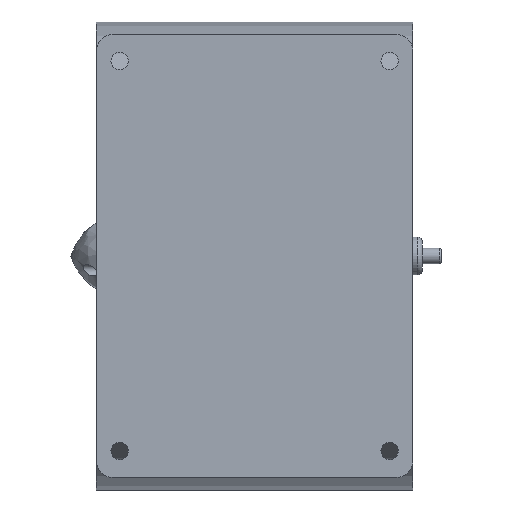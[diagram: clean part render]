
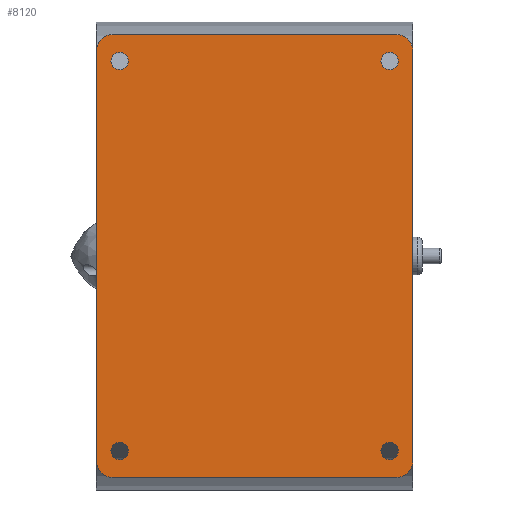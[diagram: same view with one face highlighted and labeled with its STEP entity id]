
A CAD part, left-side view. The second image highlights one B-rep face of the part: STEP entity #8120.
In plain terms, the highlighted planar face has unit normal (-1, 0, 0).
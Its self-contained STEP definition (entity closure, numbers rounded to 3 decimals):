
#205=FACE_BOUND('',#1857,.T.);
#206=FACE_BOUND('',#1858,.T.);
#207=FACE_BOUND('',#1859,.T.);
#208=FACE_BOUND('',#1860,.T.);
#1135=PLANE('',#8819);
#1447=FACE_OUTER_BOUND('',#1856,.T.);
#1856=EDGE_LOOP('',(#7305,#7306,#7307,#7308,#7309,#7310,#7311,#7312));
#1857=EDGE_LOOP('',(#7313));
#1858=EDGE_LOOP('',(#7314));
#1859=EDGE_LOOP('',(#7315));
#1860=EDGE_LOOP('',(#7316));
#2134=LINE('',#28624,#2384);
#2146=LINE('',#28680,#2396);
#2147=LINE('',#28684,#2397);
#2148=LINE('',#28688,#2398);
#2384=VECTOR('',#9993,10.);
#2396=VECTOR('',#10039,10.);
#2397=VECTOR('',#10042,10.);
#2398=VECTOR('',#10045,10.);
#2685=CIRCLE('',#8754,2.75);
#2687=CIRCLE('',#8757,2.75);
#2689=CIRCLE('',#8760,2.75);
#2691=CIRCLE('',#8763,2.75);
#2719=CIRCLE('',#8800,5.);
#2737=CIRCLE('',#8820,5.);
#2738=CIRCLE('',#8821,5.);
#2739=CIRCLE('',#8822,5.);
#3617=VERTEX_POINT('',#28348);
#3619=VERTEX_POINT('',#28354);
#3621=VERTEX_POINT('',#28360);
#3623=VERTEX_POINT('',#28366);
#3653=VERTEX_POINT('',#28614);
#3654=VERTEX_POINT('',#28615);
#3657=VERTEX_POINT('',#28623);
#3684=VERTEX_POINT('',#28679);
#3685=VERTEX_POINT('',#28681);
#3686=VERTEX_POINT('',#28683);
#3687=VERTEX_POINT('',#28685);
#3688=VERTEX_POINT('',#28687);
#4833=EDGE_CURVE('',#3617,#3617,#2685,.T.);
#4836=EDGE_CURVE('',#3619,#3619,#2687,.T.);
#4839=EDGE_CURVE('',#3621,#3621,#2689,.T.);
#4842=EDGE_CURVE('',#3623,#3623,#2691,.T.);
#4883=EDGE_CURVE('',#3653,#3654,#2719,.T.);
#4887=EDGE_CURVE('',#3654,#3657,#2134,.T.);
#4915=EDGE_CURVE('',#3653,#3684,#2146,.T.);
#4916=EDGE_CURVE('',#3685,#3684,#2737,.T.);
#4917=EDGE_CURVE('',#3686,#3685,#2147,.T.);
#4918=EDGE_CURVE('',#3687,#3686,#2738,.T.);
#4919=EDGE_CURVE('',#3688,#3687,#2148,.T.);
#4920=EDGE_CURVE('',#3657,#3688,#2739,.T.);
#7305=ORIENTED_EDGE('',*,*,#4883,.F.);
#7306=ORIENTED_EDGE('',*,*,#4915,.T.);
#7307=ORIENTED_EDGE('',*,*,#4916,.F.);
#7308=ORIENTED_EDGE('',*,*,#4917,.F.);
#7309=ORIENTED_EDGE('',*,*,#4918,.F.);
#7310=ORIENTED_EDGE('',*,*,#4919,.F.);
#7311=ORIENTED_EDGE('',*,*,#4920,.F.);
#7312=ORIENTED_EDGE('',*,*,#4887,.F.);
#7313=ORIENTED_EDGE('',*,*,#4833,.T.);
#7314=ORIENTED_EDGE('',*,*,#4836,.T.);
#7315=ORIENTED_EDGE('',*,*,#4839,.T.);
#7316=ORIENTED_EDGE('',*,*,#4842,.T.);
#8120=ADVANCED_FACE('',(#1447,#205,#206,#207,#208),#1135,.T.);
#8754=AXIS2_PLACEMENT_3D('',#28349,#9883,#9884);
#8757=AXIS2_PLACEMENT_3D('',#28355,#9890,#9891);
#8760=AXIS2_PLACEMENT_3D('',#28361,#9897,#9898);
#8763=AXIS2_PLACEMENT_3D('',#28367,#9904,#9905);
#8800=AXIS2_PLACEMENT_3D('',#28616,#9985,#9986);
#8819=AXIS2_PLACEMENT_3D('',#28678,#10037,#10038);
#8820=AXIS2_PLACEMENT_3D('',#28682,#10040,#10041);
#8821=AXIS2_PLACEMENT_3D('',#28686,#10043,#10044);
#8822=AXIS2_PLACEMENT_3D('',#28689,#10046,#10047);
#9883=DIRECTION('center_axis',(1.,0.,0.));
#9884=DIRECTION('ref_axis',(0.,0.,1.));
#9890=DIRECTION('center_axis',(1.,0.,0.));
#9891=DIRECTION('ref_axis',(0.,0.,1.));
#9897=DIRECTION('center_axis',(1.,0.,0.));
#9898=DIRECTION('ref_axis',(0.,0.,1.));
#9904=DIRECTION('center_axis',(1.,0.,0.));
#9905=DIRECTION('ref_axis',(0.,0.,1.));
#9985=DIRECTION('center_axis',(1.,0.,0.));
#9986=DIRECTION('ref_axis',(0.,0.707,0.707));
#9993=DIRECTION('',(0.,-1.,0.));
#10037=DIRECTION('center_axis',(-1.,0.,0.));
#10038=DIRECTION('ref_axis',(0.,1.,0.));
#10039=DIRECTION('',(0.,0.,-1.));
#10040=DIRECTION('center_axis',(1.,0.,0.));
#10041=DIRECTION('ref_axis',(0.,0.707,-0.707));
#10042=DIRECTION('',(0.,1.,0.));
#10043=DIRECTION('center_axis',(1.,0.,0.));
#10044=DIRECTION('ref_axis',(0.,-0.707,-0.707));
#10045=DIRECTION('',(0.,0.,-1.));
#10046=DIRECTION('center_axis',(1.,0.,0.));
#10047=DIRECTION('ref_axis',(0.,-0.707,0.707));
#28348=CARTESIAN_POINT('',(-74.,61.664,39.941));
#28349=CARTESIAN_POINT('Origin',(-74.,61.664,42.691));
#28354=CARTESIAN_POINT('',(-74.,-61.664,39.941));
#28355=CARTESIAN_POINT('Origin',(-74.,-61.664,42.691));
#28360=CARTESIAN_POINT('',(-74.,-61.664,-45.441));
#28361=CARTESIAN_POINT('Origin',(-74.,-61.664,-42.691));
#28366=CARTESIAN_POINT('',(-74.,61.664,-45.441));
#28367=CARTESIAN_POINT('Origin',(-74.,61.664,-42.691));
#28614=CARTESIAN_POINT('',(-74.,70.,45.));
#28615=CARTESIAN_POINT('',(-74.,65.,50.));
#28616=CARTESIAN_POINT('Origin',(-74.,65.,45.));
#28623=CARTESIAN_POINT('',(-74.,-65.,50.));
#28624=CARTESIAN_POINT('',(-74.,0.,50.));
#28678=CARTESIAN_POINT('Origin',(-74.,0.,50.));
#28679=CARTESIAN_POINT('',(-74.,70.,-45.));
#28680=CARTESIAN_POINT('',(-74.,70.,50.));
#28681=CARTESIAN_POINT('',(-74.,65.,-50.));
#28682=CARTESIAN_POINT('Origin',(-74.,65.,-45.));
#28683=CARTESIAN_POINT('',(-74.,-65.,-50.));
#28684=CARTESIAN_POINT('',(-74.,0.,-50.));
#28685=CARTESIAN_POINT('',(-74.,-70.,-45.));
#28686=CARTESIAN_POINT('Origin',(-74.,-65.,-45.));
#28687=CARTESIAN_POINT('',(-74.,-70.,45.));
#28688=CARTESIAN_POINT('',(-74.,-70.,50.));
#28689=CARTESIAN_POINT('Origin',(-74.,-65.,45.));
